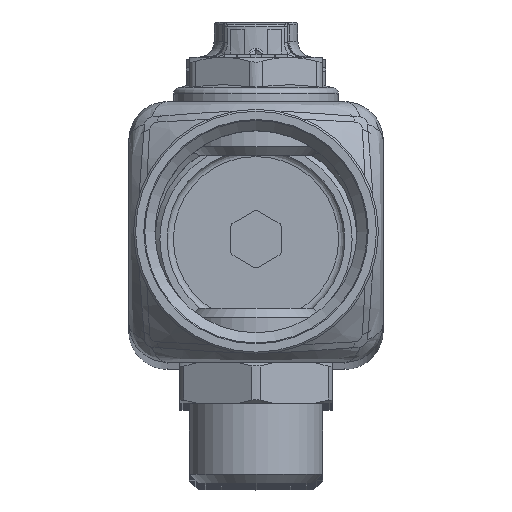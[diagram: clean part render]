
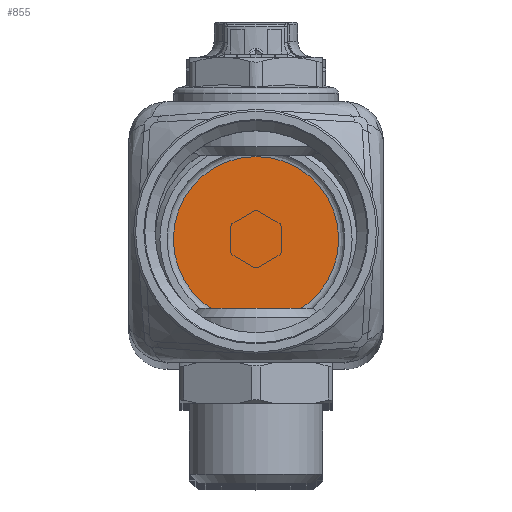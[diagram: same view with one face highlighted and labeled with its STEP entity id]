
A CAD part, top view. The second image highlights one B-rep face of the part: STEP entity #855.
In plain terms, the highlighted planar face has unit normal (0, 0, 1).
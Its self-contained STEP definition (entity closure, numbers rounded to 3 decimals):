
#855=ADVANCED_FACE('',(#10542),#10544,.T.);
#10542=FACE_BOUND('',#10543,.T.);
#10543=EDGE_LOOP('',(#14872));
#10544=PLANE('',#10545);
#10545=AXIS2_PLACEMENT_3D('',#10546,#10547,#10548);
#10546=CARTESIAN_POINT('',(0.,0.,-334.75));
#10547=DIRECTION('',(0.,0.,1.));
#10548=DIRECTION('',(1.,0.,0.));
#14872=ORIENTED_EDGE('',*,*,#18270,.T.);
#18270=EDGE_CURVE('',#22004,#22004,#22005,.T.);
#22004=VERTEX_POINT('',#34884);
#22005=CIRCLE('',#34885,13.);
#34884=CARTESIAN_POINT('',(13.,0.,-334.75));
#34885=AXIS2_PLACEMENT_3D('',#34886,#34887,#34888);
#34886=CARTESIAN_POINT('',(0.,0.,-334.75));
#34887=DIRECTION('',(0.,0.,1.));
#34888=DIRECTION('',(1.,0.,0.));
